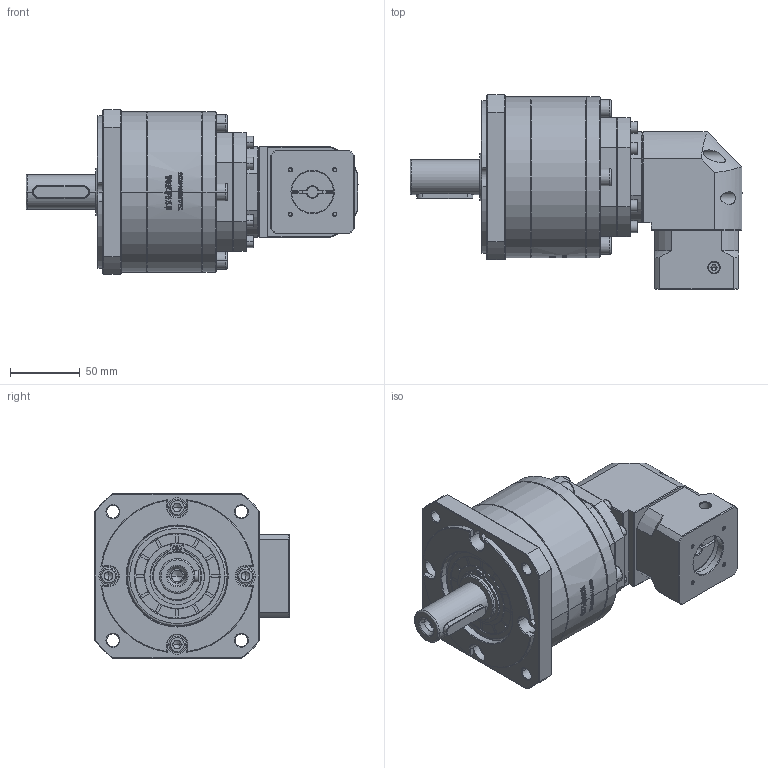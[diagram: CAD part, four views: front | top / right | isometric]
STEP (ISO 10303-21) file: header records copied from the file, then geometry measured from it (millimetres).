
FILE_DESCRIPTION (( 'STEP AP214' ), '1' );
FILE_NAME ('ZFR120A-D25-L3-8-30-45-M3.step', '2023-03-08T14:53:27', ( '' ), ( 'Microsoft' ), 'SwSTEP 2.0', 'SolidWorks 2016', '' );
FILE_SCHEMA (( 'AUTOMOTIVE_DESIGN' ));
Length unit declared in the file: millimetre
Products named in the file (1): ZFR120A-D25-L3-8-30-45-M3
Bounding box: 237.5 x 139.2 x 118 mm (x, y, z)
Volume: 1474243.6 mm3; surface area: 140489.5 mm2
Topology: 6 solids, 6 shells, 3030 faces, 7994 edges, 5133 vertices
Faces by surface type: plane 1592, bspline 661, cylinder 438, cone 339
Entity records: 166295 total; most frequent: CARTESIAN_POINT 64038, ORIENTED_EDGE 15896, DIRECTION 11704, EDGE_CURVE 7948, VERTEX_POINT 5133, LINE 4970, VECTOR 4970, AXIS2_PLACEMENT_3D 3367
